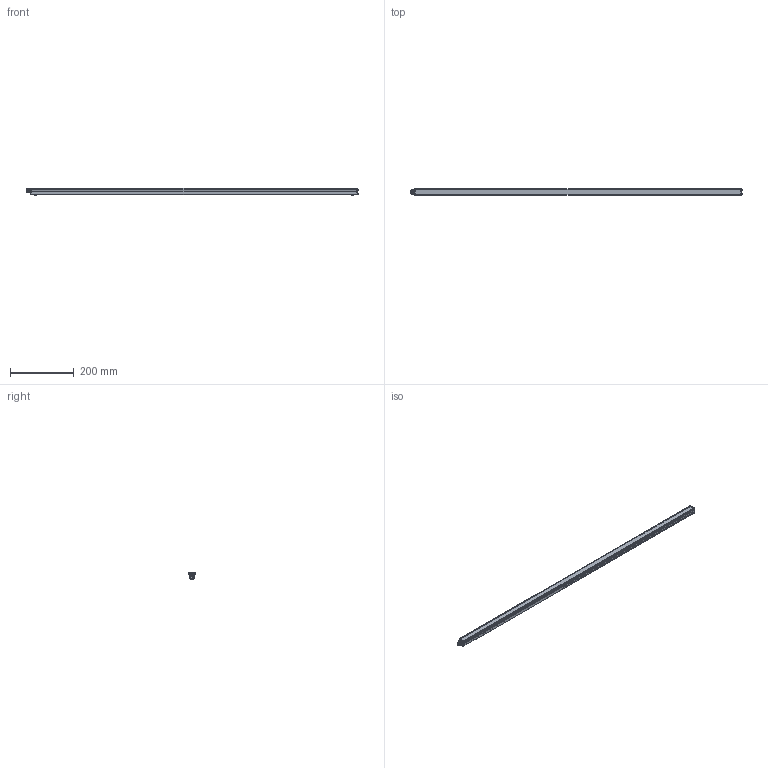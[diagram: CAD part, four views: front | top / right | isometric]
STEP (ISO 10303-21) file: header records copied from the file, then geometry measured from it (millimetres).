
FILE_DESCRIPTION (( 'STEP AP214' ), '1' );
FILE_NAME ('AL126 _NONSEALED__AL12640.stp', '2021-04-29T14:25:30', ( '' ), ( '' ), 'SwSTEP 2.0', 'SolidWorks 2018', '' );
FILE_SCHEMA (( 'AUTOMOTIVE_DESIGN' ));
Length unit declared in the file: inch
Products named in the file (15): 093469_093469; 091052 (116 126); 10mm Advanced illumination; BH-M4x6; 10mm Swish_Default<As Machined>; 093474_093474; 10mm Ai; 090877-XX_090877-40; AL126 _NONSEALED__AL12640; 090875; 090889-XX_090889-40; 10mm Label (116 126)_Default<As Machined>; HN-M4_90592A016; 091064_Model_Dome Fittings_Thread Type and Size(Dome)_M10 x 1.5_Hazardous Location-Explosive Proof(ATEX and EExe Versions)_No_; 090876
Assembly tree (24 placements, depth 3):
  AL126 _NONSEALED__AL12640
    090889-XX_090889-40
    090877-XX_090877-40
    090875
    090876
    093474_093474  x8
    093469_093469  x2
    091064_Model_Dome Fittings_Thread Type and Size(Dome)_M10 x 1.5_Hazardous Location-Explosive Proof(ATEX and EExe Versions)_No_
    HN-M4_90592A016  x2
    BH-M4x6  x2
    091052 (116 126)
      10mm Label (116 126)_Default<As Machined>
      10mm Ai
      10mm Swish_Default<As Machined>
      10mm Advanced illumination
Bounding box: 1045.13 x 20.02 x 24.1 mm (x, y, z)
Volume: 140062.3 mm3; surface area: 199450.3 mm2
Topology: 48 solids, 48 shells, 1877 faces, 4840 edges, 3010 vertices
Faces by surface type: cylinder 934, plane 401, cone 362, bspline 120, torus 60
Entity records: 30293 total; most frequent: CARTESIAN_POINT 10456, ORIENTED_EDGE 4076, DIRECTION 3580, EDGE_CURVE 2038, VERTEX_POINT 1298, AXIS2_PLACEMENT_3D 1276, VECTOR 1028, LINE 1028
